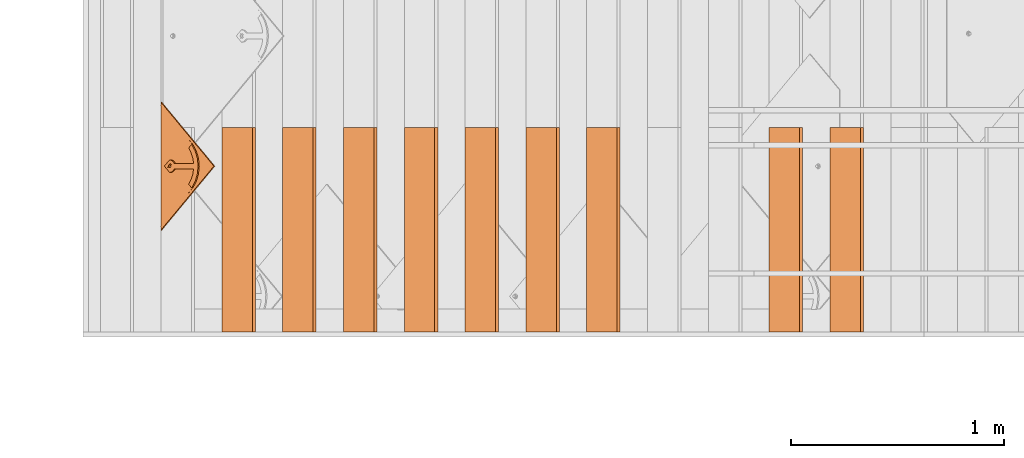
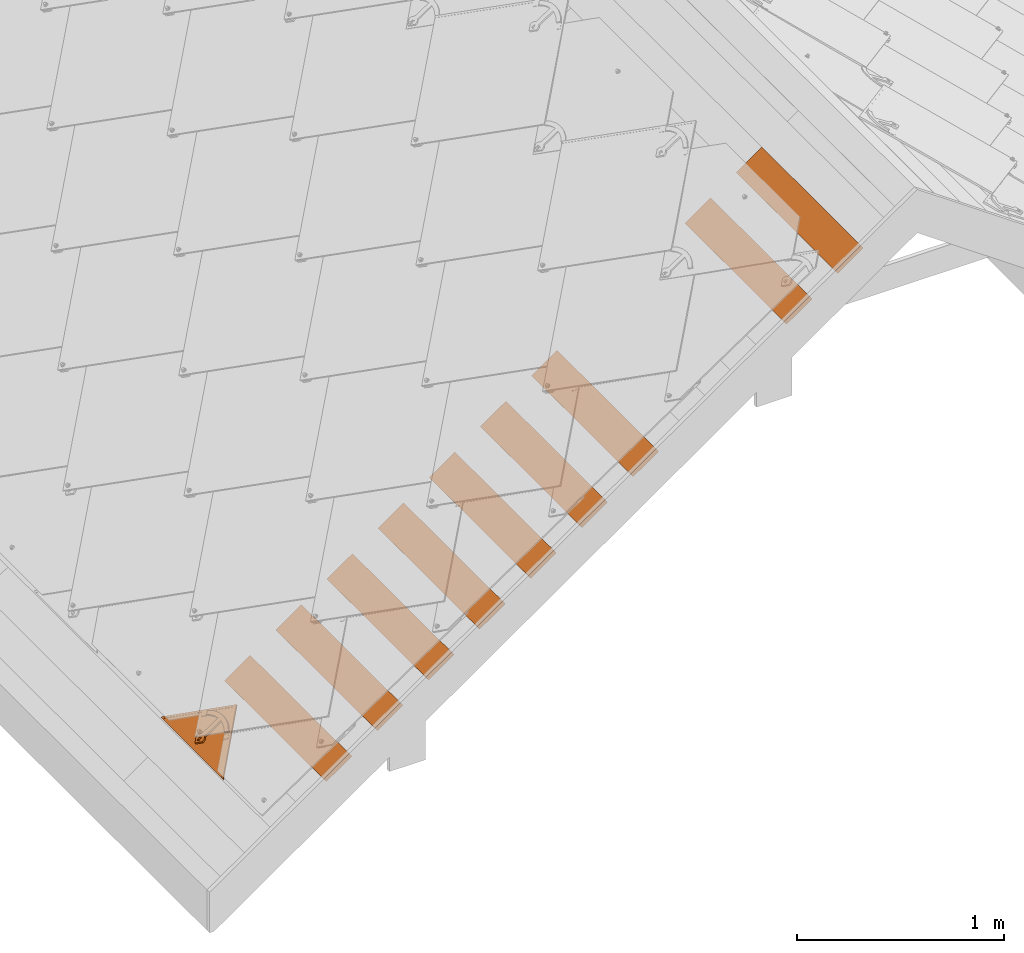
# One storey, part 113 of 151: 10 proxies, 1 element without a shape of its own.
"""IFC2X3 building model written with IfcOpenShell, lengths in millimetres."""

from ifc_helpers import new_model, entity, si_unit, converted_unit, derived_unit, direction, frame, frame_2d, origin, place, context, subcontext, project, spatial, rectangle, extrude, faceted_brep, source, transform, mapped, material, material_list, type_object, type_shapes, element, aggregate, save


model = new_model("IFC2X3")

# Units and contexts
model_context = context("Model", 3, precision=0.01, world=origin(), true_north=direction((6.12303176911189e-17, 1.0)))
body_context = subcontext(model_context, "Body", "Model", "MODEL_VIEW")
ifc_project = project(units=[si_unit("LENGTHUNIT", "METRE", prefix="MILLI"), si_unit("AREAUNIT", "SQUARE_METRE"), si_unit("VOLUMEUNIT", "CUBIC_METRE"), converted_unit("PLANEANGLEUNIT", "DEGREE", entity("IfcRatioMeasure", 0.0174532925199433), si_unit("PLANEANGLEUNIT", "RADIAN"), dimensions=[0, 0, 0, 0, 0, 0, 0]), si_unit("MASSUNIT", "GRAM", prefix="KILO"), derived_unit("MASSDENSITYUNIT", [(si_unit("MASSUNIT", "GRAM", prefix="KILO"), 1), (si_unit("LENGTHUNIT", "METRE"), -3)]), si_unit("TIMEUNIT", "SECOND"), si_unit("FREQUENCYUNIT", "HERTZ"), si_unit("THERMODYNAMICTEMPERATUREUNIT", "DEGREE_CELSIUS"), derived_unit("THERMALTRANSMITTANCEUNIT", [(si_unit("MASSUNIT", "GRAM", prefix="KILO"), 1), (si_unit("THERMODYNAMICTEMPERATUREUNIT", "KELVIN"), -1), (si_unit("TIMEUNIT", "SECOND"), -3)]), derived_unit("VOLUMETRICFLOWRATEUNIT", [(si_unit("LENGTHUNIT", "METRE"), 3), (si_unit("TIMEUNIT", "SECOND"), -1)]), si_unit("ELECTRICCURRENTUNIT", "AMPERE"), si_unit("ELECTRICVOLTAGEUNIT", "VOLT"), si_unit("POWERUNIT", "WATT"), si_unit("FORCEUNIT", "NEWTON", prefix="KILO"), si_unit("ILLUMINANCEUNIT", "LUX"), si_unit("LUMINOUSFLUXUNIT", "LUMEN"), si_unit("LUMINOUSINTENSITYUNIT", "CANDELA"), derived_unit("USERDEFINED", [(si_unit("MASSUNIT", "GRAM", prefix="KILO"), -1), (si_unit("LENGTHUNIT", "METRE"), -2), (si_unit("TIMEUNIT", "SECOND"), 3), (si_unit("LUMINOUSFLUXUNIT", "LUMEN"), 1)]), derived_unit("LINEARVELOCITYUNIT", [(si_unit("LENGTHUNIT", "METRE"), 1), (si_unit("TIMEUNIT", "SECOND"), -1)]), si_unit("PRESSUREUNIT", "PASCAL"), derived_unit("USERDEFINED", [(si_unit("LENGTHUNIT", "METRE"), -2), (si_unit("MASSUNIT", "GRAM", prefix="KILO"), 1), (si_unit("TIMEUNIT", "SECOND"), -2)])], contexts=[model_context])

# Site, building, storey
site_placement = place(None, origin())
site = spatial("IfcSite", under=ifc_project, at=site_placement, Name="Default", CompositionType="ELEMENT")
building_placement = place(site_placement, origin())
building = spatial("IfcBuilding", under=site, at=building_placement, CompositionType="ELEMENT")
storey_placement = place(building_placement, origin())
storey = spatial("IfcBuildingStorey", under=building, at=storey_placement, Name="Level 1", CompositionType="ELEMENT", Elevation=0.0)

# Assembly, proxies
assembly_placement = place(storey_placement, origin())
assembly = element("IfcElementAssembly", 1, at=assembly_placement, inside=storey, Name="Structural Framing Assembly:Roof Construction Assembly", ObjectType="Structural Framing Assembly:Roof Construction Assembly", AssemblyPlace="NOTDEFINED", PredefinedType="USERDEFINED")
ifc_material_1 = material(Name="Wood - Generic - Wood For Showcase")
building_element_proxy_type_1 = type_object("IfcBuildingElementProxyType", Name="Structural Framing 15", PredefinedType="NOTDEFINED", material=ifc_material_1)
shared_shape_1 = source(origin(), body_context, "Body", "SweptSolid", [
    extrude(rectangle(XDim=24.9999999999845, YDim=174.344679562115, at=frame_2d((-1.77635683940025e-13, -4.54747350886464e-13), x_axis=(0.0, 1.0))), frame((1128.20180147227, 2967.09519417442, 2760.23940055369), z_axis=(0.0, 1.0, 0.0), x_axis=(-0.819152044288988, 0.0, -0.573576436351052)), (0.0, 0.0, 1.0), 958.455607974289),
])
type_shapes(building_element_proxy_type_1, [shared_shape_1])
proxy_1_placement = place(assembly_placement, frame((-228.141730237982, -9670.0, -200.0)))
proxy_1 = element("IfcBuildingElementProxy", 2, at=proxy_1_placement, type_object=building_element_proxy_type_1, material=ifc_material_1, Name="Structural Framing 29:Structural Framing 15", ObjectType="Structural Framing 29:Structural Framing 15", context=body_context, shape_type="MappedRepresentation", body=[
    mapped(shared_shape_1, transform((0.0, 0.0, 0.0), scale=1.0)),
])
building_element_proxy_type_2 = type_object("IfcBuildingElementProxyType", Name="Structural Framing 15", PredefinedType="NOTDEFINED", material=ifc_material_1)
shared_shape_2 = source(origin(), body_context, "Body", "SweptSolid", [
    extrude(rectangle(XDim=24.9999999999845, YDim=174.344679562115, at=frame_2d((-1.77635683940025e-13, -4.54747350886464e-13), x_axis=(0.0, 1.0))), frame((1128.20180147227, 2967.09519417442, 2760.23940055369), z_axis=(0.0, 1.0, 0.0), x_axis=(-0.819152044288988, 0.0, -0.573576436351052)), (0.0, 0.0, 1.0), 958.455607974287),
])
type_shapes(building_element_proxy_type_2, [shared_shape_2])
proxy_2_placement = place(assembly_placement, frame((-513.771331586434, -9670.0, -400.0)))
proxy_2 = element("IfcBuildingElementProxy", 3, at=proxy_2_placement, type_object=building_element_proxy_type_2, material=ifc_material_1, Name="Structural Framing 39:Structural Framing 15", ObjectType="Structural Framing 39:Structural Framing 15", context=body_context, shape_type="MappedRepresentation", body=[
    mapped(shared_shape_2, transform((0.0, 0.0, 0.0), scale=1.0)),
])
building_element_proxy_type_3 = type_object("IfcBuildingElementProxyType", Name="Structural Framing 15", PredefinedType="NOTDEFINED", material=ifc_material_1)
shared_shape_3 = source(origin(), body_context, "Body", "SweptSolid", [
    extrude(rectangle(XDim=24.9999999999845, YDim=174.344679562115, at=frame_2d((-1.77635683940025e-13, -4.54747350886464e-13), x_axis=(0.0, 1.0))), frame((1128.20180147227, 2967.09519417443, 2760.23940055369), z_axis=(0.0, 1.0, 0.0), x_axis=(-0.819152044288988, 0.0, -0.573576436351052)), (0.0, 0.0, 1.0), 958.45560797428),
])
type_shapes(building_element_proxy_type_3, [shared_shape_3])
proxy_3_placement = place(assembly_placement, frame((-1370.66013563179, -9670.0, -1000.0)))
proxy_3 = element("IfcBuildingElementProxy", 4, at=proxy_3_placement, type_object=building_element_proxy_type_3, material=ifc_material_1, Name="Structural Framing 69:Structural Framing 15", ObjectType="Structural Framing 69:Structural Framing 15", context=body_context, shape_type="MappedRepresentation", body=[
    mapped(shared_shape_3, transform((0.0, 0.0, 0.0), scale=1.0)),
])
building_element_proxy_type_4 = type_object("IfcBuildingElementProxyType", Name="Structural Framing 15", PredefinedType="NOTDEFINED", material=ifc_material_1)
shared_shape_4 = source(origin(), body_context, "Body", "SweptSolid", [
    extrude(rectangle(XDim=24.9999999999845, YDim=174.344679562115, at=frame_2d((-1.77635683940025e-13, -4.54747350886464e-13), x_axis=(0.0, 1.0))), frame((1128.20180147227, 2967.09519417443, 2760.23940055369), z_axis=(0.0, 1.0, 0.0), x_axis=(-0.819152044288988, 0.0, -0.573576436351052)), (0.0, 0.0, 1.0), 958.455607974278),
])
type_shapes(building_element_proxy_type_4, [shared_shape_4])
proxy_4_placement = place(assembly_placement, frame((-1656.28973698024, -9670.0, -1200.0)))
proxy_4 = element("IfcBuildingElementProxy", 5, at=proxy_4_placement, type_object=building_element_proxy_type_4, material=ifc_material_1, Name="Structural Framing 79:Structural Framing 15", ObjectType="Structural Framing 79:Structural Framing 15", context=body_context, shape_type="MappedRepresentation", body=[
    mapped(shared_shape_4, transform((0.0, 0.0, 0.0), scale=1.0)),
])
building_element_proxy_type_5 = type_object("IfcBuildingElementProxyType", Name="Structural Framing 15", PredefinedType="NOTDEFINED", material=ifc_material_1)
shared_shape_5 = source(origin(), body_context, "Body", "SweptSolid", [
    extrude(rectangle(XDim=24.9999999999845, YDim=174.344679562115, at=frame_2d((-1.77635683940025e-13, -4.54747350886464e-13), x_axis=(0.0, 1.0))), frame((1128.20180147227, 2967.09519417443, 2760.23940055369), z_axis=(0.0, 1.0, 0.0), x_axis=(-0.819152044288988, 0.0, -0.573576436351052)), (0.0, 0.0, 1.0), 958.455607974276),
])
type_shapes(building_element_proxy_type_5, [shared_shape_5])
proxy_5_placement = place(assembly_placement, frame((-1941.91933832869, -9670.0, -1400.0)))
proxy_5 = element("IfcBuildingElementProxy", 6, at=proxy_5_placement, type_object=building_element_proxy_type_5, material=ifc_material_1, Name="Structural Framing 89:Structural Framing 15", ObjectType="Structural Framing 89:Structural Framing 15", context=body_context, shape_type="MappedRepresentation", body=[
    mapped(shared_shape_5, transform((0.0, 0.0, 0.0), scale=1.0)),
])
building_element_proxy_type_6 = type_object("IfcBuildingElementProxyType", Name="Structural Framing 15", PredefinedType="NOTDEFINED", material=ifc_material_1)
shared_shape_6 = source(origin(), body_context, "Body", "SweptSolid", [
    extrude(rectangle(XDim=24.9999999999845, YDim=174.344679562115, at=frame_2d((-1.77635683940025e-13, -4.54747350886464e-13), x_axis=(0.0, 1.0))), frame((1128.20180147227, 2967.09519417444, 2760.23940055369), z_axis=(0.0, 1.0, 0.0), x_axis=(-0.819152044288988, 0.0, -0.573576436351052)), (0.0, 0.0, 1.0), 958.455607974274),
])
type_shapes(building_element_proxy_type_6, [shared_shape_6])
proxy_6_placement = place(assembly_placement, frame((-2227.54893967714, -9670.0, -1600.0)))
proxy_6 = element("IfcBuildingElementProxy", 7, at=proxy_6_placement, type_object=building_element_proxy_type_6, material=ifc_material_1, Name="Structural Framing 99:Structural Framing 15", ObjectType="Structural Framing 99:Structural Framing 15", context=body_context, shape_type="MappedRepresentation", body=[
    mapped(shared_shape_6, transform((0.0, 0.0, 0.0), scale=1.0)),
])
building_element_proxy_type_7 = type_object("IfcBuildingElementProxyType", Name="Structural Framing 15", PredefinedType="NOTDEFINED", material=ifc_material_1)
shared_shape_7 = source(origin(), body_context, "Body", "SweptSolid", [
    extrude(rectangle(XDim=24.9999999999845, YDim=174.344679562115, at=frame_2d((-1.77635683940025e-13, -4.54747350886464e-13), x_axis=(0.0, 1.0))), frame((1128.20180147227, 2967.09519417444, 2760.23940055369), z_axis=(0.0, 1.0, 0.0), x_axis=(-0.819152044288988, 0.0, -0.573576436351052)), (0.0, 0.0, 1.0), 958.455607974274),
])
type_shapes(building_element_proxy_type_7, [shared_shape_7])
proxy_7_placement = place(assembly_placement, frame((-2513.17854102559, -9670.0, -1800.0)))
proxy_7 = element("IfcBuildingElementProxy", 8, at=proxy_7_placement, type_object=building_element_proxy_type_7, material=ifc_material_1, Name="Structural Framing 109:Structural Framing 15", ObjectType="Structural Framing 109:Structural Framing 15", context=body_context, shape_type="MappedRepresentation", body=[
    mapped(shared_shape_7, transform((0.0, 0.0, 0.0), scale=1.0)),
])
building_element_proxy_type_8 = type_object("IfcBuildingElementProxyType", Name="Structural Framing 15", PredefinedType="NOTDEFINED", material=ifc_material_1)
shared_shape_8 = source(origin(), body_context, "Body", "SweptSolid", [
    extrude(rectangle(XDim=24.9999999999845, YDim=174.344679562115, at=frame_2d((-1.77635683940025e-13, -4.54747350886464e-13), x_axis=(0.0, 1.0))), frame((1128.20180147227, 2967.09519417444, 2760.23940055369), z_axis=(0.0, 1.0, 0.0), x_axis=(-0.819152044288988, 0.0, -0.573576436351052)), (0.0, 0.0, 1.0), 958.45560797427),
])
type_shapes(building_element_proxy_type_8, [shared_shape_8])
proxy_8_placement = place(assembly_placement, frame((-2798.80814237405, -9670.0, -2000.0)))
proxy_8 = element("IfcBuildingElementProxy", 9, at=proxy_8_placement, type_object=building_element_proxy_type_8, material=ifc_material_1, Name="Structural Framing 119:Structural Framing 15", ObjectType="Structural Framing 119:Structural Framing 15", context=body_context, shape_type="MappedRepresentation", body=[
    mapped(shared_shape_8, transform((0.0, 0.0, 0.0), scale=1.0)),
])
building_element_proxy_type_9 = type_object("IfcBuildingElementProxyType", Name="Structural Framing 15", PredefinedType="NOTDEFINED", material=ifc_material_1)
shared_shape_9 = source(origin(), body_context, "Body", "SweptSolid", [
    extrude(rectangle(XDim=24.9999999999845, YDim=174.344679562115, at=frame_2d((-1.77635683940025e-13, -4.54747350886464e-13), x_axis=(0.0, 1.0))), frame((1128.20180147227, 2967.09519417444, 2760.23940055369), z_axis=(0.0, 1.0, 0.0), x_axis=(-0.819152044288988, 0.0, -0.573576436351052)), (0.0, 0.0, 1.0), 958.455607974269),
])
type_shapes(building_element_proxy_type_9, [shared_shape_9])
proxy_9_placement = place(assembly_placement, frame((-3084.43774372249, -9670.0, -2200.0)))
proxy_9 = element("IfcBuildingElementProxy", 10, at=proxy_9_placement, type_object=building_element_proxy_type_9, material=ifc_material_1, Name="Structural Framing 129:Structural Framing 15", ObjectType="Structural Framing 129:Structural Framing 15", context=body_context, shape_type="MappedRepresentation", body=[
    mapped(shared_shape_9, transform((0.0, 0.0, 0.0), scale=1.0)),
])
aggregate(assembly, [proxy_1, proxy_2, proxy_3, proxy_4, proxy_5, proxy_6, proxy_7, proxy_8, proxy_9])

# Proxy
ifc_material_2 = material(Name="Rubber - Sunstyle - Black")
ifc_material_3 = material(Name="Glass - Sunstyle - Tainted Black")
ifc_material_list_1 = material_list([ifc_material_2, ifc_material_3])
ifc_material_list_2 = material_list([ifc_material_2, ifc_material_3])
building_element_proxy_type_10 = type_object("IfcBuildingElementProxyType", Name="Shingle Bottom Small - Black", PredefinedType="NOTDEFINED", material=ifc_material_list_2)
shared_shape_10 = source(origin(), body_context, "Body", "Brep", [
    faceted_brep([(302.08842791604, 44.9093317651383, 22.0558382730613), (302.08842791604, 49.408700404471, 21.980485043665), (293.484723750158, 48.4726030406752, 21.9961623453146), (310.692132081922, 48.4726030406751, 21.9961623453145), (308.728656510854, 53.2419006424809, 21.9162884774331), (314.255903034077, 57.0751008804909, 21.8520919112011), (308.728656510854, 60.9083011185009, 21.7878953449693), (310.692132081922, 65.6775987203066, 21.7080214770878), (302.08842791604, 64.7415013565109, 21.7236987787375), (302.08842791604, 69.2408699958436, 21.6483455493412), (293.484723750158, 65.6775987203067, 21.708021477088), (295.448199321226, 60.908301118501, 21.7878953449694), (289.920952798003, 57.0751008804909, 21.8520919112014), (295.448199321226, 53.2419006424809, 21.9162884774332), (295.448199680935, 60.6403782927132, 5.79013870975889), (302.08842791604, 64.473578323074, 5.72594214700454), (295.448199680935, 52.9739782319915, 5.91853183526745), (302.08842791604, 49.1407782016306, 5.98272839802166), (308.728656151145, 52.9739782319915, 5.91853183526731), (308.728656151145, 60.6403782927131, 5.79013870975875), (293.484723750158, 48.2046804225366, 5.99840570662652), (302.08842791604, 44.6414091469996, 6.05808163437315), (289.920952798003, 56.8071782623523, 5.85433527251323), (293.484723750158, 65.4096761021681, 5.71026483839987), (302.08842791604, 68.972947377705, 5.65058891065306), (310.692132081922, 65.409676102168, 5.71026483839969), (314.255903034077, 56.8071782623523, 5.85433527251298), (310.692132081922, 48.2046804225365, 5.99840570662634)], [[[0, 1, 2]], [[1, 0, 3]], [[3, 4, 1]], [[4, 3, 5]], [[6, 4, 5]], [[5, 7, 6]], [[7, 8, 6]], [[8, 7, 9]], [[8, 9, 10]], [[10, 11, 8]], [[12, 11, 10]], [[2, 13, 12]], [[12, 13, 11]], [[13, 2, 1]], [[8, 11, 14, 15]], [[11, 13, 16, 14]], [[13, 1, 17, 16]], [[1, 4, 18, 17]], [[4, 6, 19, 18]], [[6, 8, 15, 19]], [[20, 17, 21]], [[17, 20, 16]], [[22, 16, 20]], [[14, 16, 22]], [[23, 14, 22]], [[15, 14, 23]], [[23, 24, 15]], [[24, 25, 15]], [[19, 15, 25]], [[19, 25, 26]], [[26, 18, 19]], [[26, 27, 18]], [[17, 18, 27]], [[27, 21, 17]], [[24, 23, 10, 9]], [[10, 23, 22, 12]], [[20, 21, 0, 2]], [[20, 2, 12, 22]], [[21, 27, 3, 0]], [[3, 27, 26, 5]], [[25, 24, 9, 7]], [[25, 7, 5, 26]]]),
    faceted_brep([(587.35835892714, 0.0, 12.5593198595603), (595.843045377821, 8.4846864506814, 12.4172224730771), (595.843045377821, 8.50980419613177, 13.9170121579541), (587.35835892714, 0.0251177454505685, 14.0591095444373), (302.088750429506, 285.189618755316, 7.7831033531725), (16.8191419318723, 0.0, 12.5593198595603), (8.33445548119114, 8.48468645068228, 12.4172224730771), (302.088750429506, 302.156612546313, 7.49894842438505), (302.088750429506, 302.181730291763, 8.9987381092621), (8.33445548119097, 8.50980419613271, 13.9170121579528), (16.8191419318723, 0.0251177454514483, 14.0591095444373), (302.088750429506, 285.214736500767, 9.28289303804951)], [[[0, 1, 2, 3]], [[1, 0, 4, 5, 6, 7]], [[2, 1, 7, 8]], [[3, 2, 8, 9, 10, 11]], [[0, 3, 11, 4]], [[5, 10, 9, 6]], [[8, 7, 6, 9]], [[4, 11, 10, 5]]]),
    faceted_brep([(302.088750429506, 302.156612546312, 7.49894842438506), (305.194256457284, 68.3255429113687, 11.4150370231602), (308.088427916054, 67.1269059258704, 11.4351112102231), (302.088427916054, 68.7343756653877, 11.4081900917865), (310.573709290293, 65.2201498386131, 11.4670446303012), (298.982599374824, 68.3255429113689, 11.4150370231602), (296.088427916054, 67.1269059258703, 11.4351112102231), (293.603146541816, 65.2201498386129, 11.4670446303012), (312.480732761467, 62.7352169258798, 11.5086610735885), (604.177500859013, 0.152567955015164, 12.5567647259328), (291.696123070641, 62.7352169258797, 11.5086610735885), (0.0, 0.152567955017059, 12.5567647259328), (290.497318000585, 59.8414512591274, 11.5571244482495), (290.088427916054, 56.7360581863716, 11.6091320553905), (290.497318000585, 53.6306651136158, 11.6611396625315), (291.696123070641, 50.7368994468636, 11.7096030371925), (293.603146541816, 48.2519665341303, 11.7512194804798), (296.088427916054, 46.3452104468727, 11.7831529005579), (298.982599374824, 45.1465734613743, 11.8032270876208), (302.088427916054, 44.7377407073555, 11.8100740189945), (313.679537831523, 59.8414512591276, 11.5571244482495), (314.088427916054, 56.7360581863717, 11.6091320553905), (313.679537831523, 53.6306651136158, 11.6611396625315), (312.480732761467, 50.7368994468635, 11.7096030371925), (310.573709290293, 48.2519665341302, 11.7512194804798), (308.088427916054, 46.3452104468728, 11.7831529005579), (305.194256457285, 45.1465734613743, 11.8032270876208), (0.0, 0.0269792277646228, 5.0578163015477), (290.088427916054, 56.6104694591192, 4.11018363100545), (290.497318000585, 53.5050763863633, 4.16219123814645), (290.497318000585, 59.7158625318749, 4.05817602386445), (291.696123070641, 50.6113107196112, 4.21065461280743), (291.696123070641, 62.6096281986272, 4.00971264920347), (302.088750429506, 302.031023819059, 0.0), (293.603146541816, 48.1263778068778, 4.25227105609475), (296.088427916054, 46.2196217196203, 4.28420447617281), (298.982599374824, 45.0209847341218, 4.30427866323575), (302.088427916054, 44.612151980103, 4.31112559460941), (604.177500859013, 0.0269792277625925, 5.05781630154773), (293.603146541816, 65.0945611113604, 3.96809620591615), (296.088427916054, 67.0013171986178, 3.93616278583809), (298.982599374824, 68.1999541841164, 3.91608859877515), (302.088427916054, 68.6087869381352, 3.90924166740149), (305.194256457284, 68.1999541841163, 3.91608859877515), (308.088427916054, 67.0013171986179, 3.93616278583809), (310.573709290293, 65.0945611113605, 3.96809620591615), (312.480732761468, 62.6096281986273, 4.00971264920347), (305.194256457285, 45.0209847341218, 4.30427866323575), (308.088427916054, 46.2196217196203, 4.28420447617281), (313.679537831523, 59.7158625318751, 4.05817602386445), (314.088427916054, 56.6104694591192, 4.11018363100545), (313.679537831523, 53.5050763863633, 4.16219123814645), (312.480732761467, 50.611310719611, 4.21065461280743), (310.573709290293, 48.1263778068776, 4.25227105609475)], [[[0, 1, 2]], [[1, 0, 3]], [[0, 2, 4]], [[5, 3, 0]], [[6, 5, 0]], [[0, 7, 6]], [[8, 0, 4]], [[0, 8, 9]], [[7, 0, 10]], [[0, 11, 10]], [[12, 10, 11]], [[11, 13, 12]], [[13, 11, 14]], [[15, 14, 11]], [[11, 16, 15]], [[17, 16, 11]], [[17, 11, 18]], [[19, 18, 11]], [[19, 11, 9]], [[9, 8, 20]], [[20, 21, 9]], [[21, 22, 9]], [[22, 23, 9]], [[9, 23, 24]], [[24, 25, 9]], [[25, 26, 9]], [[9, 26, 19]], [[27, 28, 29]], [[28, 27, 30]], [[27, 29, 31]], [[32, 30, 27]], [[32, 27, 33]], [[31, 34, 27]], [[34, 35, 27]], [[35, 36, 27]], [[36, 37, 27]], [[27, 37, 38]], [[33, 39, 32]], [[40, 39, 33]], [[41, 40, 33]], [[42, 41, 33]], [[33, 43, 42]], [[43, 33, 44]], [[45, 44, 33]], [[33, 46, 45]], [[46, 33, 38]], [[38, 37, 47]], [[47, 48, 38]], [[49, 46, 38]], [[38, 50, 49]], [[50, 38, 51]], [[52, 51, 38]], [[53, 52, 38]], [[53, 38, 48]], [[11, 0, 33, 27]], [[0, 9, 38, 33]], [[13, 28, 30, 12]], [[12, 30, 32, 10]], [[6, 7, 39, 40]], [[39, 7, 10, 32]], [[5, 6, 40, 41]], [[5, 41, 42, 3]], [[3, 42, 43, 1]], [[1, 43, 44, 2]], [[8, 4, 45, 46]], [[45, 4, 2, 44]], [[20, 8, 46, 49]], [[20, 49, 50, 21]], [[21, 50, 51, 22]], [[22, 51, 52, 23]], [[25, 24, 53, 48]], [[53, 24, 23, 52]], [[26, 25, 48, 47]], [[26, 47, 37, 19]], [[19, 37, 36, 18]], [[18, 36, 35, 17]], [[15, 16, 34, 31]], [[34, 16, 17, 35]], [[14, 15, 31, 29]], [[14, 29, 28, 13]], [[9, 11, 27, 38]]]),
    faceted_brep([(190.819384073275, 138.646056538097, 12.7376939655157), (217.144031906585, 164.967013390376, 12.2968834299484), (200.060856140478, 182.04779392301, 12.0108228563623), (193.80845410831, 176.686146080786, 12.100617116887), (187.837458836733, 171.012871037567, 12.1956303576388), (173.141714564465, 156.321247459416, 12.4416784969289), (431.035141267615, 156.321247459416, 12.4416784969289), (416.339396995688, 171.012871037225, 12.1956303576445), (410.36840172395, 176.686146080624, 12.1006171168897), (404.115999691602, 182.047793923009, 12.0108228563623), (387.031626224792, 164.968210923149, 12.2968633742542), (413.357471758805, 138.646056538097, 12.7376939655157), (296.088427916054, 67.294357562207, 21.4337091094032), (288.788427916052, 83.1076295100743, 21.1688761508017), (283.384321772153, 79.569581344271, 21.2281296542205), (293.603146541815, 65.3876014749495, 21.4656425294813), (298.982599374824, 68.4929945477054, 21.4136349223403), (302.088427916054, 68.9018273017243, 21.4067879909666), (315.388427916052, 83.107629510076, 21.1688761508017), (305.194256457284, 68.4929945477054, 21.4136349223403), (308.088427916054, 67.2943575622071, 21.4337091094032), (320.792534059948, 79.5695813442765, 21.2281296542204), (310.573709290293, 65.3876014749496, 21.4656425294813), (325.293078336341, 74.9365758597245, 21.3057209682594), (312.480732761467, 62.9026685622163, 21.5072589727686), (328.672647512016, 69.4324252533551, 21.3979017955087), (313.679537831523, 60.0089028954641, 21.5557223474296), (330.767980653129, 63.323025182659, 21.500219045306), (314.088427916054, 56.9035098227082, 21.6077299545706), (331.477855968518, 56.9035098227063, 21.6077299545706), (313.679537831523, 53.7981167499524, 21.6597375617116), (312.480732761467, 50.9043510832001, 21.7082009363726), (310.573709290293, 48.4194181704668, 21.7498173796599), (302.08842791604, 27.5182024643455, 22.0998607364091), (308.088427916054, 46.5126620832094, 21.7817507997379), (305.194256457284, 45.314025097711, 21.8018249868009), (302.088427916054, 44.9051923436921, 21.8086719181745), (298.982599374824, 45.314025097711, 21.8018249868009), (296.088427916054, 46.5126620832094, 21.7817507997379), (293.603146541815, 48.4194181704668, 21.7498173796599), (272.69899986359, 56.903509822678, 21.6077299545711), (291.696123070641, 50.9043510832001, 21.7082009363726), (290.497318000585, 53.7981167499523, 21.6597375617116), (290.088427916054, 56.9035098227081, 21.6077299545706), (273.408875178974, 63.3230251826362, 21.5002190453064), (290.497318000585, 60.008902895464, 21.5557223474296), (275.504208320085, 69.4324252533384, 21.397901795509), (291.696123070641, 62.9026685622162, 21.5072589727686), (278.883777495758, 74.9365758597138, 21.3057209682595), (288.788427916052, 192.984512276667, 19.3287117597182), (315.388427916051, 192.984512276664, 19.3287117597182), (302.088427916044, 218.456125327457, 18.9021256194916), (338.579268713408, 214.282159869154, 18.9720291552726), (340.858170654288, 188.169632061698, 19.4093490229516), (373.184513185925, 201.975945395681, 19.1781276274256), (365.012761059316, 178.765998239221, 19.5668364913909), (404.115999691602, 182.173382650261, 19.5097712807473), (387.032823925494, 165.092602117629, 19.7958318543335), (265.59758711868, 214.28215986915, 18.9720291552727), (263.318685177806, 188.169632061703, 19.4093490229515), (230.992342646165, 201.975945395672, 19.1781276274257), (239.164094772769, 178.765998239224, 19.5668364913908), (200.06085614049, 182.173382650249, 19.5097712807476), (217.144031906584, 165.092602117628, 19.7958318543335), (302.08842791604, 27.3507508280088, 12.1012628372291), (302.088427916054, 44.7377407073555, 11.8100740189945), (305.194256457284, 45.1465734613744, 11.8032270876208), (298.982599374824, 45.1465734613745, 11.8032270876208), (308.088427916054, 46.3452104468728, 11.7831529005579), (310.573709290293, 48.2519665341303, 11.7512194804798), (331.477855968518, 56.7360581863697, 11.6091320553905), (296.088427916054, 46.3452104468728, 11.7831529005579), (293.603146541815, 48.2519665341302, 11.7512194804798), (272.69899986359, 56.7360581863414, 11.609132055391), (291.696123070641, 50.7368994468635, 11.7096030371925), (290.497318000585, 53.6306651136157, 11.6611396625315), (290.088427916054, 56.7360581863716, 11.6091320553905), (273.408875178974, 63.1555735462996, 11.5016211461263), (290.497318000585, 59.8414512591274, 11.5571244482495), (275.504208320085, 69.2649736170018, 11.3993038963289), (291.696123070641, 62.7352169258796, 11.5086610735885), (278.883777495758, 74.7691242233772, 11.3071230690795), (293.603146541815, 65.2201498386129, 11.4670446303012), (283.384321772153, 79.4021297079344, 11.2295317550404), (296.088427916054, 67.1269059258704, 11.4351112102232), (288.788427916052, 82.9401778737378, 11.1702782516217), (298.982599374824, 68.3255429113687, 11.4150370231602), (302.088427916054, 68.7343756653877, 11.4081900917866), (315.388427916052, 82.9401778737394, 11.1702782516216), (288.788427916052, 192.81706064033, 9.33011386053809), (315.388427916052, 192.817060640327, 9.33011386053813), (302.088427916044, 218.28867369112, 8.90352772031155), (265.59758711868, 214.114708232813, 8.97343125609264), (263.318685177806, 188.002180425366, 9.41075112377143), (230.992342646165, 201.808493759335, 9.17952972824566), (239.164094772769, 178.598546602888, 9.56823859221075), (200.06085614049, 182.005931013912, 9.51117338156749), (217.145229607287, 164.926348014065, 9.79721389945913), (193.80845410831, 176.644283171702, 9.60096764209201), (187.837458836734, 170.971008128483, 9.69598088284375), (190.819384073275, 138.604193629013, 10.2380444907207), (173.141714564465, 156.279384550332, 9.94202902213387), (338.579268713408, 214.114708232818, 8.97343125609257), (340.858170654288, 188.002180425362, 9.41075112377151), (373.184513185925, 201.808493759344, 9.17952972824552), (365.012761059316, 178.598546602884, 9.5682385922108), (404.115999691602, 182.005931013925, 9.51117338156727), (387.032823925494, 164.925150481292, 9.79723395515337), (410.36840172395, 176.64428317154, 9.60096764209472), (416.339396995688, 170.971008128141, 9.69598088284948), (413.357471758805, 138.604193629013, 10.2380444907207), (431.035141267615, 156.279384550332, 9.94202902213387), (305.194256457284, 68.3255429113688, 11.4150370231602), (308.088427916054, 67.1269059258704, 11.4351112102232), (320.792534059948, 79.4021297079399, 11.2295317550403), (310.573709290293, 65.220149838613, 11.4670446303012), (325.293078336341, 74.7691242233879, 11.3071230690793), (312.480732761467, 62.7352169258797, 11.5086610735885), (328.672647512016, 69.2649736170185, 11.3993038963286), (313.679537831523, 59.8414512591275, 11.5571244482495), (330.767980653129, 63.1555735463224, 11.5016211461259), (314.088427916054, 56.7360581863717, 11.6091320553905), (312.480732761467, 50.7368994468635, 11.7096030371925), (313.679537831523, 53.6306651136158, 11.6611396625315)], [[[0, 1, 2, 3, 4, 5]], [[6, 7, 8, 9, 10, 11]], [[12, 13, 14]], [[12, 14, 15]], [[16, 13, 12]], [[17, 13, 16]], [[18, 13, 17]], [[17, 19, 18]], [[19, 20, 18]], [[20, 21, 18]], [[21, 20, 22]], [[21, 22, 23]], [[24, 23, 22]], [[23, 24, 25]], [[24, 26, 25]], [[27, 25, 26]], [[26, 28, 27]], [[29, 27, 28]], [[28, 30, 29]], [[30, 31, 29]], [[29, 31, 32]], [[32, 33, 29]], [[32, 34, 33]], [[35, 33, 34]], [[36, 33, 35]], [[33, 36, 37]], [[38, 33, 37]], [[38, 39, 33]], [[40, 33, 39]], [[41, 40, 39]], [[41, 42, 40]], [[42, 43, 40]], [[43, 44, 40]], [[45, 44, 43]], [[45, 46, 44]], [[45, 47, 46]], [[48, 46, 47]], [[48, 47, 15]], [[48, 15, 14]], [[18, 49, 13]], [[50, 49, 18]], [[51, 49, 50]], [[50, 52, 51]], [[50, 53, 52]], [[52, 53, 54]], [[53, 55, 54]], [[56, 54, 55]], [[57, 56, 55]], [[58, 49, 51]], [[49, 58, 59]], [[60, 59, 58]], [[60, 61, 59]], [[61, 60, 62]], [[62, 63, 61]], [[64, 65, 66]], [[65, 64, 67]], [[64, 66, 68]], [[68, 69, 64]], [[64, 69, 70]], [[71, 67, 64]], [[71, 64, 72]], [[72, 64, 73]], [[73, 74, 72]], [[74, 73, 75]], [[75, 73, 76]], [[77, 76, 73]], [[76, 77, 78]], [[78, 77, 79]], [[80, 78, 79]], [[81, 80, 79]], [[82, 80, 81]], [[83, 82, 81]], [[83, 84, 82]], [[85, 84, 83]], [[85, 86, 84]], [[87, 86, 85]], [[88, 87, 85]], [[89, 88, 85]], [[88, 89, 90]], [[89, 91, 90]], [[91, 89, 92]], [[93, 92, 89]], [[92, 93, 94]], [[95, 94, 93]], [[96, 94, 95]], [[95, 97, 96]], [[97, 98, 96]], [[98, 97, 99]], [[97, 100, 99]], [[99, 100, 101]], [[90, 91, 102]], [[103, 90, 102]], [[103, 102, 104]], [[105, 103, 104]], [[106, 105, 104]], [[107, 105, 106]], [[106, 108, 107]], [[109, 107, 108]], [[110, 107, 109]], [[109, 111, 110]], [[112, 87, 88]], [[113, 112, 88]], [[114, 113, 88]], [[115, 113, 114]], [[115, 114, 116]], [[116, 117, 115]], [[117, 116, 118]], [[118, 119, 117]], [[120, 119, 118]], [[121, 120, 70]], [[120, 121, 119]], [[70, 69, 122]], [[122, 123, 70]], [[123, 121, 70]], [[13, 49, 89, 85]], [[14, 13, 85, 83]], [[48, 14, 83, 81]], [[81, 79, 46, 48]], [[44, 46, 79, 77]], [[40, 44, 77, 73]], [[33, 40, 73, 64]], [[0, 5, 101, 100]], [[29, 33, 64, 70]], [[6, 11, 110, 111]], [[27, 29, 70, 120]], [[25, 27, 120, 118]], [[118, 116, 23, 25]], [[21, 23, 116, 114]], [[18, 21, 114, 88]], [[50, 18, 88, 90]], [[9, 106, 104, 54, 56]], [[52, 54, 104, 102]], [[51, 52, 102, 91]], [[58, 51, 91, 92]], [[94, 96, 2, 62, 60]], [[60, 58, 92, 94]], [[43, 76, 78, 45]], [[45, 78, 80, 47]], [[12, 15, 82, 84]], [[80, 82, 15, 47]], [[16, 12, 84, 86]], [[87, 17, 16, 86]], [[19, 112, 113, 20]], [[20, 113, 115, 22]], [[26, 24, 117, 119]], [[115, 117, 24, 22]], [[28, 26, 119, 121]], [[19, 17, 87, 112]], [[28, 121, 123, 30]], [[30, 123, 122, 31]], [[34, 32, 69, 68]], [[122, 69, 32, 31]], [[35, 34, 68, 66]], [[65, 36, 35, 66]], [[37, 67, 71, 38]], [[38, 71, 72, 39]], [[42, 41, 74, 75]], [[72, 74, 41, 39]], [[43, 42, 75, 76]], [[37, 36, 65, 67]], [[7, 6, 111, 109]], [[7, 109, 108, 8]], [[108, 106, 9, 8]], [[11, 10, 107, 110]], [[1, 0, 100, 97]], [[2, 96, 98, 3]], [[98, 99, 4, 3]], [[5, 4, 99, 101]], [[63, 62, 2, 1]], [[56, 57, 10]], [[10, 9, 56]], [[1, 95, 61, 63]], [[1, 97, 95]], [[93, 89, 49, 59]], [[95, 93, 59, 61]], [[90, 103, 53, 50]], [[103, 105, 55, 53]], [[10, 57, 55]], [[107, 10, 105]], [[55, 105, 10]]]),
])
type_shapes(building_element_proxy_type_10, [shared_shape_10])
proxy_10_placement = place(storey_placement, frame((-2314.80779912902, -5622.87791691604, 322.304712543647), z_axis=(-0.57357643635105, 0.0, 0.819152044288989), x_axis=(0.0, -1.0, 0.0)))
element("IfcBuildingElementProxy", 11, at=proxy_10_placement, inside=storey, type_object=building_element_proxy_type_10, material=ifc_material_list_1, Name="Roofing_Panels_SunStyle_Tile_Shingle-Bottom-Small:Shingle Bottom Small - Black", ObjectType="Roofing_Panels_SunStyle_Tile_Shingle-Bottom-Small:Shingle Bottom Small - Black", context=body_context, shape_type="MappedRepresentation", body=[
    mapped(shared_shape_10, transform((0.0, 0.0, 0.0), scale=1.0)),
])

save(model, "model.ifc")
